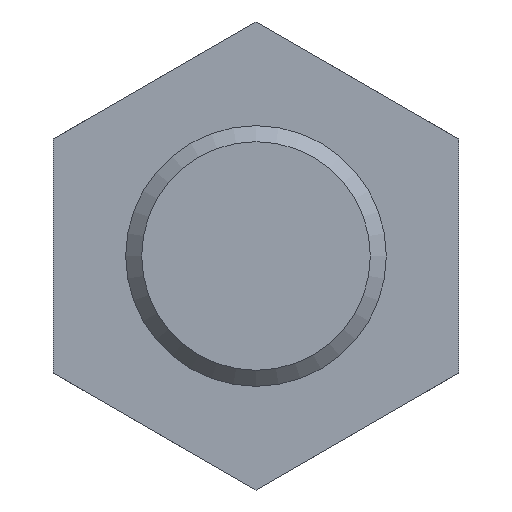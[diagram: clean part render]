
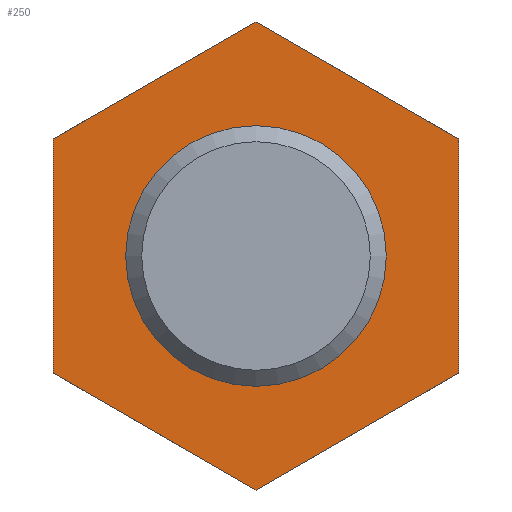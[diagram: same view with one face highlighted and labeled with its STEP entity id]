
A CAD part, front view. The second image highlights one B-rep face of the part: STEP entity #250.
In plain terms, the highlighted planar face has unit normal (0, -1, 0).
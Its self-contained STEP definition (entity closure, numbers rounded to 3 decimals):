
#14=LINE($,#421,#26);
#17=LINE($,#426,#29);
#19=LINE($,#430,#31);
#21=LINE($,#435,#33);
#23=LINE($,#438,#35);
#24=LINE($,#440,#36);
#26=VECTOR($,#322,40.415);
#29=VECTOR($,#327,40.415);
#31=VECTOR($,#331,40.415);
#33=VECTOR($,#335,40.415);
#35=VECTOR($,#339,40.415);
#36=VECTOR($,#342,40.415);
#56=PLANE($,#279);
#61=FACE_BOUND($,#96,.T.);
#62=FACE_BOUND($,#97,.T.);
#96=EDGE_LOOP($,(#215));
#97=EDGE_LOOP($,(#216,#217,#218,#219,#220,#221));
#101=CIRCLE($,#259,22.5);
#110=VERTEX_POINT($,#354);
#123=VERTEX_POINT($,#418);
#124=VERTEX_POINT($,#420);
#125=VERTEX_POINT($,#424);
#126=VERTEX_POINT($,#428);
#127=VERTEX_POINT($,#432);
#128=VERTEX_POINT($,#434);
#131=EDGE_CURVE($,#110,#110,#101,.T.);
#151=EDGE_CURVE($,#124,#123,#14,.T.);
#154=EDGE_CURVE($,#123,#125,#17,.T.);
#156=EDGE_CURVE($,#125,#126,#19,.T.);
#158=EDGE_CURVE($,#128,#127,#21,.T.);
#160=EDGE_CURVE($,#127,#124,#23,.T.);
#161=EDGE_CURVE($,#126,#128,#24,.T.);
#215=ORIENTED_EDGE($,*,*,#131,.T.);
#216=ORIENTED_EDGE($,*,*,#161,.T.);
#217=ORIENTED_EDGE($,*,*,#158,.T.);
#218=ORIENTED_EDGE($,*,*,#160,.T.);
#219=ORIENTED_EDGE($,*,*,#151,.T.);
#220=ORIENTED_EDGE($,*,*,#154,.T.);
#221=ORIENTED_EDGE($,*,*,#156,.T.);
#250=ADVANCED_FACE($,(#61,#62),#56,.T.);
#259=AXIS2_PLACEMENT_3D($,#355,#291,#292);
#279=AXIS2_PLACEMENT_3D($,#441,#343,#344);
#291=DIRECTION('center_axis',(0.,1.,0.));
#292=DIRECTION('ref_axis',(-1.,0.,0.));
#322=DIRECTION($,(-0.866,0.,0.5));
#327=DIRECTION($,(-0.866,0.,-0.5));
#331=DIRECTION($,(0.,0.,-1.));
#335=DIRECTION($,(0.866,0.,0.5));
#339=DIRECTION($,(0.,0.,1.));
#342=DIRECTION($,(0.866,0.,-0.5));
#343=DIRECTION('center_axis',(0.,-1.,0.));
#344=DIRECTION('ref_axis',(0.,0.,-1.));
#354=CARTESIAN_POINT('',(22.5,0.,0.));
#355=CARTESIAN_POINT('Origin',(0.,0.,0.));
#418=CARTESIAN_POINT('',(0.,0.,40.415));
#420=CARTESIAN_POINT('',(35.,0.,20.207));
#421=CARTESIAN_POINT($,(35.,0.,20.207));
#424=CARTESIAN_POINT('',(-35.,0.,20.207));
#426=CARTESIAN_POINT($,(0.,0.,40.415));
#428=CARTESIAN_POINT('',(-35.,0.,-20.207));
#430=CARTESIAN_POINT($,(-35.,0.,20.207));
#432=CARTESIAN_POINT('',(35.,0.,-20.207));
#434=CARTESIAN_POINT('',(0.,0.,-40.415));
#435=CARTESIAN_POINT($,(0.,0.,-40.415));
#438=CARTESIAN_POINT($,(35.,0.,-20.207));
#440=CARTESIAN_POINT($,(-35.,0.,-20.207));
#441=CARTESIAN_POINT('Origin',(0.,0.,0.));
